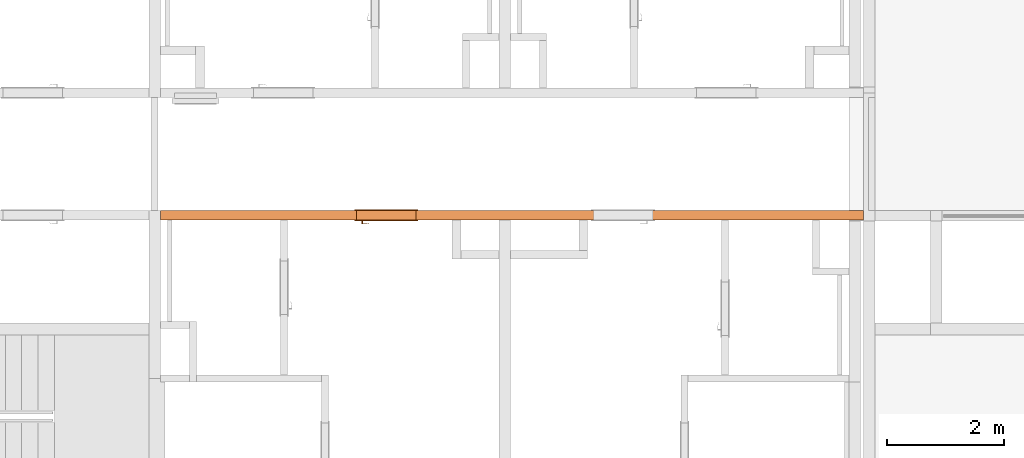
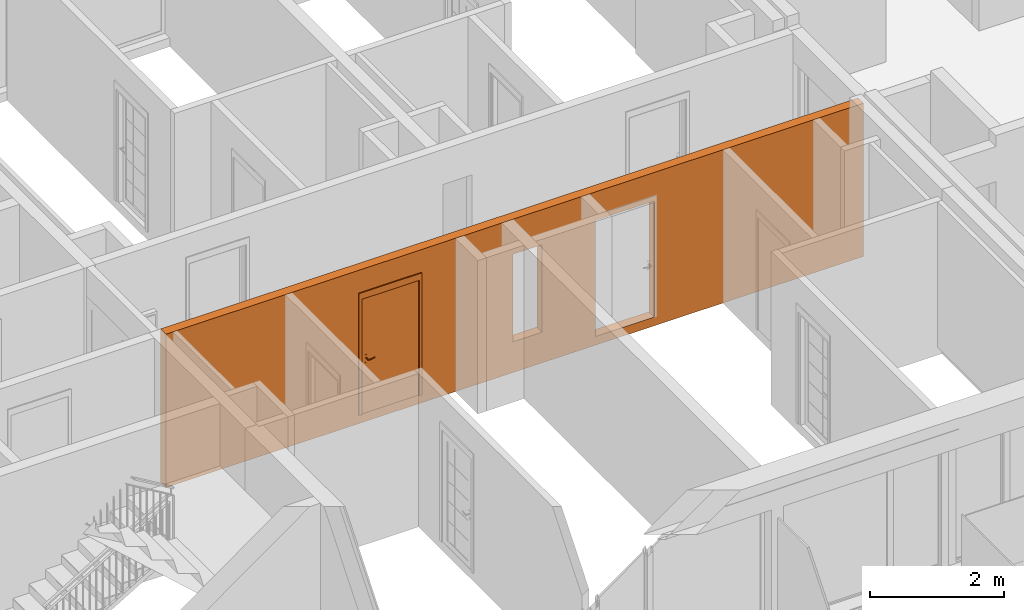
# One storey, part 22 of 64: 2 proxies, 3 openings.
"""IFC2X3 building model written with IfcOpenShell, lengths in millimetres."""

from ifc_helpers import new_model, entity, si_unit, converted_unit, derived_unit, money_unit, direction, frame, origin_with_axes, origin_2d_with_axis, place, context, subcontext, project, spatial, rectangle, extrude, open_shell, faceted_brep, surface_model, source, transform, mapped, material, type_object, element, fill, save


model = new_model("IFC2X3")

# Units and contexts
model_context = context("Model", 3, precision=0.01, world=origin_with_axes(), true_north=direction((0.34421633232, 0.938890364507)))
body_context = subcontext(model_context, "Body", "Model", "MODEL_VIEW")
ifc_project = project(units=[si_unit("LENGTHUNIT", "METRE", prefix="MILLI"), si_unit("AREAUNIT", "SQUARE_METRE"), si_unit("VOLUMEUNIT", "CUBIC_METRE"), converted_unit("PLANEANGLEUNIT", "DEGREE", entity("IfcPlaneAngleMeasure", 0.0174532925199), si_unit("PLANEANGLEUNIT", "RADIAN"), dimensions=[0, 0, 0, 0, 0, 0, 0]), si_unit("SOLIDANGLEUNIT", "STERADIAN"), money_unit("USD"), converted_unit("TIMEUNIT", "Year", entity("IfcTimeMeasure", 31556926.0), si_unit("TIMEUNIT", "SECOND"), dimensions=[0, 0, 1, 0, 0, 0, 0]), si_unit("MASSUNIT", "GRAM", prefix="KILO"), si_unit("THERMODYNAMICTEMPERATUREUNIT", "DEGREE_CELSIUS"), si_unit("LUMINOUSINTENSITYUNIT", "LUMEN"), si_unit("ENERGYUNIT", "JOULE", prefix="MEGA"), derived_unit("THERMALCONDUCTANCEUNIT", [(si_unit("POWERUNIT", "WATT"), 1), (si_unit("LENGTHUNIT", "METRE"), -1), (si_unit("THERMODYNAMICTEMPERATUREUNIT", "KELVIN"), -1)]), derived_unit("SPECIFICHEATCAPACITYUNIT", [(si_unit("ENERGYUNIT", "JOULE"), 1), (si_unit("MASSUNIT", "GRAM", prefix="KILO"), -1), (si_unit("THERMODYNAMICTEMPERATUREUNIT", "KELVIN"), -1)]), derived_unit("MASSDENSITYUNIT", [(si_unit("MASSUNIT", "GRAM", prefix="KILO"), 1), (si_unit("VOLUMEUNIT", "CUBIC_METRE"), -1)])], contexts=[model_context])

# Site, building, storey
site_placement = place(None, origin_with_axes())
site = spatial("IfcSite", under=ifc_project, at=site_placement, Name="USTRONIE MORSKIE", CompositionType="ELEMENT")
building_placement = place(site_placement, origin_with_axes())
building = spatial("IfcBuilding", under=site, at=building_placement, Name="Budynek", CompositionType="ELEMENT")
storey_placement = place(building_placement, frame((0.0, 0.0, 7000.0), z_axis=(0.0, 0.0, 1.0), x_axis=(1.0, 0.0, 0.0)))
storey = spatial("IfcBuildingStorey", under=building, at=storey_placement, Name="PIĘTRO 2", CompositionType="ELEMENT", Elevation=7000.0)

# Proxies, openings
ifc_material = material(Name="Beton konstrukcyjny B25")
building_element_proxy_type_1 = type_object("IfcBuildingElementProxyType", Name="Beton konstrukcyjny B25 160", PredefinedType="NOTDEFINED")
proxy_1_placement = place(storey_placement, frame((408567.92092, 734751.199024, -160.0), z_axis=(0.0, 0.0, 1.0), x_axis=(-1.0, 3.09952852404e-07, 0.0)))
proxy_1 = element("IfcBuildingElementProxy", 1, at=proxy_1_placement, inside=storey, type_object=building_element_proxy_type_1, material=ifc_material, Name="SW-01", context=body_context, shape_type="Brep", body=[
    faceted_brep([(12149.9999761, 80.0000000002, 0.0), (12150.0000257, -79.9999999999, 0.0), (100.000024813, -80.0, 0.0), (99.9999751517, 80.0000000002, 0.0), (12149.9999761, 80.0000000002, 2800.0), (12150.0000257, -79.9999999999, 2800.0), (100.000024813, -80.0, 2800.0), (99.9999751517, 80.0000000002, 2800.0)], [[[0, 1, 2, 3]], [[1, 0, 4, 5]], [[1, 5, 6, 2]], [[7, 3, 2, 6]], [[4, 0, 3, 7]], [[5, 4, 7, 6]]]),
])
opening_1_placement = place(proxy_1_placement, frame((8279.98054202, 0.0, 160.0), z_axis=(0.0, 0.0, 1.0), x_axis=(1.0, 0.0, 0.0)))
opening_1 = element("IfcOpeningElement", 2, at=opening_1_placement, cuts=proxy_1, Name="Dw.1", context=body_context, shape_type="SweptSolid", body=[
    extrude(rectangle(XDim=1020.0, YDim=2120.0, at=origin_2d_with_axis()), frame((0.0, -160.0, 1060.0), z_axis=(0.0, -1.0, 0.0), x_axis=(-1.0, 0.0, 0.0)), (0.0, 0.0, -1.0), 480.0),
    extrude(rectangle(XDim=1094.0, YDim=2227.0, at=origin_2d_with_axis()), frame((0.0, -80.0, 1113.5), z_axis=(0.0, -1.0, 0.0), x_axis=(-1.0, 0.0, 0.0)), (0.0, 0.0, 1.0), 160.0),
    extrude(rectangle(XDim=1094.0, YDim=2227.0, at=origin_2d_with_axis()), frame((0.0, 79.9999999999, 1113.5), z_axis=(0.0, 1.0, 0.0), x_axis=(-1.0, 0.0, 0.0)), (0.0, 0.0, 1.0), 160.0),
])
opening_2_placement = place(proxy_1_placement, frame((4220.01924278, 0.0, 160.0), z_axis=(0.0, 0.0, 1.0), x_axis=(1.0, 0.0, 0.0)))
element("IfcOpeningElement", 3, at=opening_2_placement, cuts=proxy_1, Name="Dw.1", context=body_context, shape_type="SweptSolid", body=[
    extrude(rectangle(XDim=1020.0, YDim=2120.0, at=origin_2d_with_axis()), frame((0.0, -160.0, 1060.0), z_axis=(0.0, 1.0, 0.0), x_axis=(1.0, 0.0, 0.0)), (0.0, 0.0, 1.0), 480.0),
    extrude(rectangle(XDim=1094.0, YDim=2227.0, at=origin_2d_with_axis()), frame((0.0, -80.0, 1113.5), z_axis=(0.0, 1.0, 0.0), x_axis=(1.0, 0.0, 0.0)), (0.0, 0.0, -1.0), 160.0),
    extrude(rectangle(XDim=1094.0, YDim=2227.0, at=origin_2d_with_axis()), frame((0.0, 80.0, 1113.5), z_axis=(0.0, -1.0, 0.0), x_axis=(1.0, 0.0, 0.0)), (0.0, 0.0, -1.0), 160.0),
])
opening_3_placement = place(proxy_1_placement, frame((5900.00003188, 1.13686837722e-10, 560.0), z_axis=(0.0, 0.0, 1.0), x_axis=(1.0, 0.0, 0.0)))
element("IfcOpeningElement", 4, at=opening_3_placement, cuts=proxy_1, Name="R.01", context=body_context, shape_type="SweptSolid", body=[
    extrude(rectangle(XDim=500.001816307, YDim=1600.0, at=origin_2d_with_axis()), frame((0.0, -80.0, 800.0), z_axis=(0.0, 1.0, 0.0), x_axis=(1.0, 0.0, 0.0)), (0.0, 0.0, -1.0), 160.0),
    extrude(rectangle(XDim=500.001816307, YDim=1600.0, at=origin_2d_with_axis()), frame((0.0, -80.0, 800.0), z_axis=(0.0, -1.0, 0.0), x_axis=(1.0, 0.0, 0.0)), (0.0, 0.0, -1.0), 160.0),
])
building_element_proxy_type_2 = type_object("IfcBuildingElementProxyType", Name="Drzwi 23", PredefinedType="NOTDEFINED")
shared_shape = source(origin_with_axes(), body_context, "Body", "SurfaceModel", [
    faceted_brep([(510.0, -115.0, 0.0), (510.0, -160.0, 0.0), (485.0, -160.0, 0.0), (485.0, -115.0, 0.0), (510.0, -115.0, 2120.0), (510.0, -160.0, 2120.0), (485.0, -160.0, 2095.0), (485.0, -115.0, 2095.0)], [[[0, 1, 2, 3]], [[4, 5, 1, 0]], [[1, 5, 6, 2]], [[3, 2, 6, 7]], [[0, 3, 7, 4]], [[7, 6, 5, 4]]]),
    faceted_brep([(-510.0, -115.0, 2120.0), (-510.0, -160.0, 2120.0), (-485.0, -160.0, 2095.0), (-485.0, -115.0, 2095.0), (-510.0, -115.0, 0.0), (-510.0, -160.0, 0.0), (-485.0, -160.0, 0.0), (-485.0, -115.0, 0.0)], [[[0, 1, 2, 3]], [[4, 5, 1, 0]], [[1, 5, 6, 2]], [[3, 2, 6, 7]], [[0, 3, 7, 4]], [[7, 6, 5, 4]]]),
    faceted_brep([(485.0, -115.0, 2095.0), (485.0, -160.0, 2095.0), (-485.0, -160.0, 2095.0), (-485.0, -115.0, 2095.0), (510.0, -115.0, 2120.0), (510.0, -160.0, 2120.0), (-510.0, -160.0, 2120.0), (-510.0, -115.0, 2120.0)], [[[0, 1, 2, 3]], [[4, 5, 1, 0]], [[1, 5, 6, 2]], [[3, 2, 6, 7]], [[0, 3, 7, 4]], [[7, 6, 5, 4]]]),
    faceted_brep([(547.0, -179.0, 0.0), (497.0, -179.0, 0.0), (497.0, -160.0, 0.0), (547.0, -160.0, 0.0), (547.0, -179.0, 2227.0), (497.0, -179.0, 2107.0), (497.0, -160.0, 2107.0), (547.0, -160.0, 2227.0)], [[[0, 1, 2, 3]], [[0, 4, 5, 1]], [[1, 5, 6, 2]], [[3, 2, 6, 7]], [[4, 0, 3, 7]], [[5, 4, 7, 6]]]),
    faceted_brep([(-547.0, -179.0, 2227.0), (-497.0, -179.0, 2107.0), (-497.0, -160.0, 2107.0), (-547.0, -160.0, 2227.0), (-547.0, -179.0, 0.0), (-497.0, -179.0, 0.0), (-497.0, -160.0, 0.0), (-547.0, -160.0, 0.0)], [[[0, 1, 2, 3]], [[0, 4, 5, 1]], [[1, 5, 6, 2]], [[3, 2, 6, 7]], [[4, 0, 3, 7]], [[5, 4, 7, 6]]]),
    faceted_brep([(547.0, -179.0, 2227.0), (497.0, -179.0, 2107.0), (497.0, -160.0, 2107.0), (547.0, -160.0, 2227.0), (-547.0, -179.0, 2227.0), (-497.0, -179.0, 2107.0), (-497.0, -160.0, 2107.0), (-547.0, -160.0, 2227.0)], [[[0, 1, 2, 3]], [[0, 4, 5, 1]], [[1, 5, 6, 2]], [[3, 2, 6, 7]], [[4, 0, 3, 7]], [[5, 4, 7, 6]]]),
    faceted_brep([(547.0, 19.0, 0.0), (547.0, 0.0, 0.0), (497.0, 0.0, 0.0), (497.0, 19.0, 0.0), (547.0, 19.0, 2227.0), (547.0, 0.0, 2227.0), (497.0, 0.0, 2107.0), (497.0, 19.0, 2107.0)], [[[0, 1, 2, 3]], [[4, 5, 1, 0]], [[1, 5, 6, 2]], [[3, 2, 6, 7]], [[0, 3, 7, 4]], [[7, 6, 5, 4]]]),
    faceted_brep([(-547.0, 19.0, 2227.0), (-547.0, 0.0, 2227.0), (-497.0, 0.0, 2107.0), (-497.0, 19.0, 2107.0), (-547.0, 19.0, 0.0), (-547.0, 0.0, 0.0), (-497.0, 0.0, 0.0), (-497.0, 19.0, 0.0)], [[[0, 1, 2, 3]], [[4, 5, 1, 0]], [[1, 5, 6, 2]], [[3, 2, 6, 7]], [[0, 3, 7, 4]], [[7, 6, 5, 4]]]),
    faceted_brep([(547.0, 19.0, 2227.0), (547.0, 0.0, 2227.0), (497.0, 0.0, 2107.0), (497.0, 19.0, 2107.0), (-547.0, 19.0, 2227.0), (-547.0, 0.0, 2227.0), (-497.0, 0.0, 2107.0), (-497.0, 19.0, 2107.0)], [[[0, 1, 2, 3]], [[4, 5, 1, 0]], [[1, 5, 6, 2]], [[3, 2, 6, 7]], [[0, 3, 7, 4]], [[7, 6, 5, 4]]]),
    faceted_brep([(450.0, -40.0, 0.0), (450.0, -115.0, 0.0), (450.0, -115.0, 2050.0), (450.0, -40.0, 2050.0), (462.0, -40.0, 0.0), (462.0, 0.0, 0.0), (510.0, 0.0, 0.0), (510.0, -115.0, 0.0), (510.0, -115.0, 2050.0), (462.0, -40.0, 2050.0), (510.0, 0.0, 2050.0), (462.0, 0.0, 2050.0)], [[[0, 1, 2, 3]], [[4, 5, 6, 7, 1, 0]], [[1, 7, 8, 2]], [[9, 3, 2, 8, 10, 11]], [[9, 4, 0, 3]], [[11, 5, 4, 9]], [[11, 10, 6, 5]], [[6, 10, 8, 7]]]),
    faceted_brep([(-462.0, -40.0, 2050.0), (-462.0, 0.0, 2050.0), (-510.0, 0.0, 2050.0), (-510.0, -115.0, 2050.0), (-450.0, -115.0, 2050.0), (-450.0, -40.0, 2050.0), (-462.0, -40.0, 0.0), (-462.0, 0.0, 0.0), (-510.0, 0.0, 0.0), (-510.0, -115.0, 0.0), (-450.0, -115.0, 0.0), (-450.0, -40.0, 0.0)], [[[0, 1, 2, 3, 4, 5]], [[0, 6, 7, 1]], [[7, 8, 2, 1]], [[2, 8, 9, 3]], [[3, 9, 10, 4]], [[5, 4, 10, 11]], [[5, 11, 6, 0]], [[6, 11, 10, 9, 8, 7]]]),
    faceted_brep([(462.0, 0.0, 2062.0), (-462.0, 0.0, 2062.0), (-462.0, 0.0, 2050.0), (-510.0, 0.0, 2050.0), (-510.0, 0.0, 2120.0), (510.0, 0.0, 2120.0), (510.0, 0.0, 2050.0), (462.0, 0.0, 2050.0), (462.0, -40.0, 2062.0), (-462.0, -40.0, 2062.0), (-462.0, -40.0, 2050.0), (-450.0, -40.0, 2050.0), (-450.0, -115.0, 2050.0), (-510.0, -115.0, 2050.0), (-510.0, -115.0, 2120.0), (510.0, -115.0, 2120.0), (510.0, -115.0, 2050.0), (462.0, -40.0, 2050.0), (450.0, -115.0, 2050.0), (450.0, -40.0, 2050.0)], [[[0, 1, 2, 3, 4, 5, 6, 7]], [[0, 8, 9, 1]], [[1, 9, 10, 2]], [[10, 11, 12, 13, 3, 2]], [[4, 3, 13, 14]], [[5, 4, 14, 15]], [[6, 5, 15, 16]], [[17, 7, 6, 16, 18, 19]], [[7, 17, 8, 0]], [[10, 9, 8, 17, 19, 11]], [[19, 18, 12, 11]], [[12, 18, 16, 15, 14, 13]]]),
    faceted_brep([(440.5, -40.0, 1060.0), (383.5, -40.0, 1060.0), (383.5, -43.0, 1060.0), (440.5, -43.0, 1060.0), (440.5, -40.0, 870.0), (383.5, -40.0, 870.0), (383.5, -43.0, 870.0), (440.5, -43.0, 870.0)], [[[0, 1, 2, 3]], [[0, 4, 5, 1]], [[1, 5, 6, 2]], [[3, 2, 6, 7]], [[4, 0, 3, 7]], [[5, 4, 7, 6]]]),
    faceted_brep([(412.0, -104.0, 990.0), (417.0, -104.0, 991.339745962), (417.0, -111.0, 991.339745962), (412.0, -111.0, 990.0), (387.0, -104.0, 990.0), (387.0, -104.0, 1010.0), (412.0, -104.0, 1010.0), (417.0, -104.0, 1008.66025404), (420.660254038, -104.0, 1005.0), (422.0, -104.0, 1000.0), (420.660254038, -104.0, 995.0), (420.660254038, -111.0, 995.0), (422.0, -111.0, 1000.0), (420.660254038, -111.0, 1005.0), (417.0, -111.0, 1008.66025404), (412.0, -111.0, 1010.0), (387.0, -111.0, 1010.0), (387.0, -111.0, 990.0)], [[[0, 1, 2, 3]], [[0, 4, 5, 6, 7, 8, 9, 10, 1]], [[1, 10, 11, 2]], [[3, 2, 11, 12, 13, 14, 15, 16, 17]], [[4, 0, 3, 17]], [[5, 4, 17, 16]], [[6, 5, 16, 15]], [[7, 6, 15, 14]], [[8, 7, 14, 13]], [[9, 8, 13, 12]], [[10, 9, 12, 11]]]),
    surface_model("IfcShellBasedSurfaceModel", [(387.0, -104.0, 1010.0), (373.901717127, -104.0, 1009.60730092), (373.596090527, -111.0, 1009.60730092), (387.0, -104.0, 990.0), (373.901717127, -104.0, 990.392699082), (346.890283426, -108.663544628, 1008.82190275), (387.0, -111.0, 1010.0), (387.0, -111.0, 990.0), (347.804837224, -101.716818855, 991.178097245), (347.804837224, -101.716818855, 1008.82190275), (346.890283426, -108.663544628, 991.178097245), (373.596090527, -111.0, 990.392699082), (322.006256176, -97.1678329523, 991.963495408), (322.006256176, -97.1678329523, 1008.03650459), (320.489735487, -104.008415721, 1008.03650459), (320.489735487, -104.008415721, 991.963495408), (296.702316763, -90.3876628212, 992.748893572), (296.702316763, -90.3876628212, 1007.25110643), (294.59537082, -97.0700416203, 1007.25110643), (294.59537082, -97.0700416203, 992.748893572), (288.829442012, -87.5221707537, 993.0), (288.829442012, -87.5221707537, 1007.0), (286.538795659, -94.1376880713, 1007.0), (286.538795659, -94.1376880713, 993.0)], [open_shell([[[0, 1, 2]], [[0, 3, 4, 1]], [[1, 5, 2]], [[0, 2, 6]], [[4, 3, 7]], [[1, 4, 8, 9]], [[1, 9, 5]], [[2, 5, 10, 11]], [[6, 2, 11, 7]], [[4, 7, 11]], [[8, 4, 11]], [[9, 8, 12, 13]], [[9, 14, 5]], [[5, 14, 15, 10]], [[8, 11, 10]], [[12, 8, 10]], [[13, 12, 16, 17]], [[9, 13, 14]], [[14, 18, 19, 15]], [[12, 10, 15]], [[16, 12, 15]], [[17, 16, 20, 21]], [[13, 17, 18]], [[13, 18, 14]], [[18, 22, 23, 19]], [[16, 15, 19]], [[20, 16, 19]], [[21, 20, 23, 22]], [[17, 21, 22]], [[17, 22, 18]], [[20, 19, 23]]])]),
    faceted_brep([(401.607695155, -53.0, 994.0), (400.0, -53.0, 1000.0), (399.0, -43.0, 1000.0), (400.741669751, -43.0, 993.5), (406.0, -53.0, 989.607695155), (412.0, -53.0, 988.0), (418.0, -53.0, 989.607695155), (422.392304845, -53.0, 994.0), (424.0, -53.0, 1000.0), (422.392304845, -53.0, 1006.0), (418.0, -53.0, 1010.39230485), (412.0, -53.0, 1012.0), (406.0, -53.0, 1010.39230485), (401.607695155, -53.0, 1006.0), (400.741669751, -43.0, 1006.5), (405.5, -43.0, 1011.25833025), (412.0, -43.0, 1013.0), (418.5, -43.0, 1011.25833025), (423.258330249, -43.0, 1006.5), (425.0, -43.0, 1000.0), (423.258330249, -43.0, 993.5), (418.5, -43.0, 988.741669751), (412.0, -43.0, 987.0), (405.5, -43.0, 988.741669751)], [[[0, 1, 2, 3]], [[1, 0, 4, 5, 6, 7, 8, 9, 10, 11, 12, 13]], [[1, 13, 14, 2]], [[2, 14, 15, 16, 17, 18, 19, 20, 21, 22, 23, 3]], [[4, 0, 3, 23]], [[5, 4, 23, 22]], [[6, 5, 22, 21]], [[7, 6, 21, 20]], [[8, 7, 20, 19]], [[9, 8, 19, 18]], [[10, 9, 18, 17]], [[11, 10, 17, 16]], [[12, 11, 16, 15]], [[13, 12, 15, 14]]]),
    faceted_brep([(394.679491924, -47.0, 895.0), (392.0, -47.0, 905.0), (390.0, -43.0, 905.0), (392.947441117, -43.0, 894.0), (402.0, -47.0, 887.679491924), (412.0, -47.0, 885.0), (422.0, -47.0, 887.679491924), (429.320508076, -47.0, 895.0), (432.0, -47.0, 905.0), (429.320508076, -47.0, 915.0), (422.0, -47.0, 922.320508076), (412.0, -47.0, 925.0), (402.0, -47.0, 922.320508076), (394.679491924, -47.0, 915.0), (392.947441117, -43.0, 916.0), (401.0, -43.0, 924.052558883), (412.0, -43.0, 927.0), (423.0, -43.0, 924.052558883), (431.052558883, -43.0, 916.0), (434.0, -43.0, 905.0), (431.052558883, -43.0, 894.0), (423.0, -43.0, 885.947441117), (412.0, -43.0, 883.0), (401.0, -43.0, 885.947441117)], [[[0, 1, 2, 3]], [[1, 0, 4, 5, 6, 7, 8, 9, 10, 11, 12, 13]], [[1, 13, 14, 2]], [[2, 14, 15, 16, 17, 18, 19, 20, 21, 22, 23, 3]], [[4, 0, 3, 23]], [[5, 4, 23, 22]], [[6, 5, 22, 21]], [[7, 6, 21, 20]], [[8, 7, 20, 19]], [[9, 8, 19, 18]], [[10, 9, 18, 17]], [[11, 10, 17, 16]], [[12, 11, 16, 15]], [[13, 12, 15, 14]]]),
    faceted_brep([(407.050252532, -49.0, 909.050252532), (405.0, -49.0, 914.0), (404.0, -47.0, 914.0), (406.343145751, -47.0, 908.343145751), (412.0, -49.0, 907.0), (416.949747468, -49.0, 909.050252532), (419.0, -49.0, 914.0), (416.949747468, -49.0, 918.949747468), (412.0, -49.0, 921.0), (407.050252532, -49.0, 918.949747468), (406.343145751, -47.0, 919.656854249), (412.0, -47.0, 922.0), (417.656854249, -47.0, 919.656854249), (420.0, -47.0, 914.0), (417.656854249, -47.0, 908.343145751), (412.0, -47.0, 906.0)], [[[0, 1, 2, 3]], [[1, 0, 4, 5, 6, 7, 8, 9]], [[1, 9, 10, 2]], [[2, 10, 11, 12, 13, 14, 15, 3]], [[4, 0, 3, 15]], [[5, 4, 15, 14]], [[6, 5, 14, 13]], [[7, 6, 13, 12]], [[8, 7, 12, 11]], [[9, 8, 11, 10]]]),
    faceted_brep([(412.0, -53.0, 1010.0), (407.0, -53.0, 1008.66025404), (407.0, -104.0, 1008.66025404), (412.0, -104.0, 1010.0), (417.0, -53.0, 1008.66025404), (420.660254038, -53.0, 1005.0), (422.0, -53.0, 1000.0), (420.660254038, -53.0, 995.0), (417.0, -53.0, 991.339745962), (412.0, -53.0, 990.0), (407.0, -53.0, 991.339745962), (403.339745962, -53.0, 995.0), (402.0, -53.0, 1000.0), (403.339745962, -53.0, 1005.0), (403.339745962, -104.0, 1005.0), (402.0, -104.0, 1000.0), (403.339745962, -104.0, 995.0), (407.0, -104.0, 991.339745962), (412.0, -104.0, 990.0), (417.0, -104.0, 991.339745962), (420.660254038, -104.0, 995.0), (422.0, -104.0, 1000.0), (420.660254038, -104.0, 1005.0), (417.0, -104.0, 1008.66025404)], [[[0, 1, 2, 3]], [[0, 4, 5, 6, 7, 8, 9, 10, 11, 12, 13, 1]], [[1, 13, 14, 2]], [[3, 2, 14, 15, 16, 17, 18, 19, 20, 21, 22, 23]], [[4, 0, 3, 23]], [[5, 4, 23, 22]], [[6, 5, 22, 21]], [[7, 6, 21, 20]], [[8, 7, 20, 19]], [[9, 8, 19, 18]], [[10, 9, 18, 17]], [[11, 10, 17, 16]], [[12, 11, 16, 15]], [[13, 12, 15, 14]]]),
    faceted_brep([(440.5, 0.0, 1060.0), (440.5, 3.0, 1060.0), (383.5, 3.0, 1060.0), (383.5, 0.0, 1060.0), (440.5, 0.0, 870.0), (440.5, 3.0, 870.0), (383.5, 3.0, 870.0), (383.5, 0.0, 870.0)], [[[0, 1, 2, 3]], [[4, 5, 1, 0]], [[1, 5, 6, 2]], [[3, 2, 6, 7]], [[0, 3, 7, 4]], [[7, 6, 5, 4]]]),
    faceted_brep([(412.0, 64.0, 990.0), (412.0, 71.0, 990.0), (417.0, 71.0, 991.339745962), (417.0, 64.0, 991.339745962), (387.0, 64.0, 990.0), (387.0, 71.0, 990.0), (387.0, 71.0, 1010.0), (412.0, 71.0, 1010.0), (417.0, 71.0, 1008.66025404), (420.660254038, 71.0, 1005.0), (422.0, 71.0, 1000.0), (420.660254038, 71.0, 995.0), (420.660254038, 64.0, 995.0), (422.0, 64.0, 1000.0), (420.660254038, 64.0, 1005.0), (417.0, 64.0, 1008.66025404), (412.0, 64.0, 1010.0), (387.0, 64.0, 1010.0)], [[[0, 1, 2, 3]], [[4, 5, 1, 0]], [[1, 5, 6, 7, 8, 9, 10, 11, 2]], [[3, 2, 11, 12]], [[0, 3, 12, 13, 14, 15, 16, 17, 4]], [[17, 6, 5, 4]], [[16, 7, 6, 17]], [[15, 8, 7, 16]], [[14, 9, 8, 15]], [[13, 10, 9, 14]], [[12, 11, 10, 13]]]),
    surface_model("IfcShellBasedSurfaceModel", [(387.0, 64.0, 1010.0), (373.596090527, 71.0, 1009.60730092), (373.901717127, 64.0, 1009.60730092), (387.0, 71.0, 1010.0), (346.890283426, 68.6635446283, 1008.82190275), (373.901717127, 64.0, 990.392699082), (387.0, 64.0, 990.0), (387.0, 71.0, 990.0), (373.596090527, 71.0, 990.392699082), (346.890283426, 68.6635446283, 991.178097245), (347.804837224, 61.716818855, 1008.82190275), (347.804837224, 61.716818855, 991.178097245), (320.489735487, 64.0084157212, 991.963495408), (320.489735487, 64.0084157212, 1008.03650459), (322.006256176, 57.1678329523, 1008.03650459), (322.006256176, 57.1678329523, 991.963495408), (294.59537082, 57.0700416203, 992.748893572), (294.59537082, 57.0700416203, 1007.25110643), (296.702316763, 50.3876628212, 1007.25110643), (296.702316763, 50.3876628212, 992.748893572), (286.538795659, 54.1376880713, 993.0), (286.538795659, 54.1376880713, 1007.0), (288.829442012, 47.5221707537, 1007.0), (288.829442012, 47.5221707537, 993.0)], [open_shell([[[0, 1, 2]], [[0, 3, 1]], [[2, 1, 4]], [[0, 2, 5, 6]], [[3, 7, 8, 1]], [[1, 8, 9, 4]], [[2, 4, 10]], [[2, 10, 11, 5]], [[5, 7, 6]], [[5, 8, 7]], [[11, 9, 8]], [[4, 9, 12, 13]], [[10, 4, 13]], [[10, 14, 15, 11]], [[11, 8, 5]], [[15, 9, 11]], [[15, 12, 9]], [[13, 12, 16, 17]], [[10, 13, 14]], [[14, 18, 19, 15]], [[19, 12, 15]], [[19, 16, 12]], [[17, 16, 20, 21]], [[14, 13, 17]], [[14, 17, 18]], [[18, 22, 23, 19]], [[23, 16, 19]], [[23, 20, 16]], [[22, 21, 20, 23]], [[18, 17, 21]], [[18, 21, 22]]])]),
    faceted_brep([(401.607695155, 13.0, 994.0), (400.741669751, 3.0, 993.5), (399.0, 3.0, 1000.0), (400.0, 13.0, 1000.0), (406.0, 13.0, 989.607695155), (405.5, 3.0, 988.741669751), (412.0, 3.0, 987.0), (418.5, 3.0, 988.741669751), (423.258330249, 3.0, 993.5), (425.0, 3.0, 1000.0), (423.258330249, 3.0, 1006.5), (418.5, 3.0, 1011.25833025), (412.0, 3.0, 1013.0), (405.5, 3.0, 1011.25833025), (400.741669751, 3.0, 1006.5), (401.607695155, 13.0, 1006.0), (406.0, 13.0, 1010.39230485), (412.0, 13.0, 1012.0), (418.0, 13.0, 1010.39230485), (422.392304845, 13.0, 1006.0), (424.0, 13.0, 1000.0), (422.392304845, 13.0, 994.0), (418.0, 13.0, 989.607695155), (412.0, 13.0, 988.0)], [[[0, 1, 2, 3]], [[4, 5, 1, 0]], [[2, 1, 5, 6, 7, 8, 9, 10, 11, 12, 13, 14]], [[3, 2, 14, 15]], [[3, 15, 16, 17, 18, 19, 20, 21, 22, 23, 4, 0]], [[23, 6, 5, 4]], [[22, 7, 6, 23]], [[21, 8, 7, 22]], [[20, 9, 8, 21]], [[19, 10, 9, 20]], [[18, 11, 10, 19]], [[17, 12, 11, 18]], [[16, 13, 12, 17]], [[15, 14, 13, 16]]]),
    faceted_brep([(394.679491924, 7.0, 895.0), (392.947441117, 3.0, 894.0), (390.0, 3.0, 905.0), (392.0, 7.0, 905.0), (402.0, 7.0, 887.679491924), (401.0, 3.0, 885.947441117), (412.0, 3.0, 883.0), (423.0, 3.0, 885.947441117), (431.052558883, 3.0, 894.0), (434.0, 3.0, 905.0), (431.052558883, 3.0, 916.0), (423.0, 3.0, 924.052558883), (412.0, 3.0, 927.0), (401.0, 3.0, 924.052558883), (392.947441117, 3.0, 916.0), (394.679491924, 7.0, 915.0), (402.0, 7.0, 922.320508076), (412.0, 7.0, 925.0), (422.0, 7.0, 922.320508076), (429.320508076, 7.0, 915.0), (432.0, 7.0, 905.0), (429.320508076, 7.0, 895.0), (422.0, 7.0, 887.679491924), (412.0, 7.0, 885.0)], [[[0, 1, 2, 3]], [[4, 5, 1, 0]], [[2, 1, 5, 6, 7, 8, 9, 10, 11, 12, 13, 14]], [[3, 2, 14, 15]], [[3, 15, 16, 17, 18, 19, 20, 21, 22, 23, 4, 0]], [[23, 6, 5, 4]], [[22, 7, 6, 23]], [[21, 8, 7, 22]], [[20, 9, 8, 21]], [[19, 10, 9, 20]], [[18, 11, 10, 19]], [[17, 12, 11, 18]], [[16, 13, 12, 17]], [[15, 14, 13, 16]]]),
    faceted_brep([(407.050252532, 9.0, 909.050252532), (406.343145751, 7.0, 908.343145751), (404.0, 7.0, 914.0), (405.0, 9.0, 914.0), (412.0, 9.0, 907.0), (412.0, 7.0, 906.0), (417.656854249, 7.0, 908.343145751), (420.0, 7.0, 914.0), (417.656854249, 7.0, 919.656854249), (412.0, 7.0, 922.0), (406.343145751, 7.0, 919.656854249), (407.050252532, 9.0, 918.949747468), (412.0, 9.0, 921.0), (416.949747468, 9.0, 918.949747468), (419.0, 9.0, 914.0), (416.949747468, 9.0, 909.050252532)], [[[0, 1, 2, 3]], [[4, 5, 1, 0]], [[2, 1, 5, 6, 7, 8, 9, 10]], [[3, 2, 10, 11]], [[3, 11, 12, 13, 14, 15, 4, 0]], [[15, 6, 5, 4]], [[14, 7, 6, 15]], [[13, 8, 7, 14]], [[12, 9, 8, 13]], [[11, 10, 9, 12]]]),
    faceted_brep([(412.0, 13.0, 1010.0), (412.0, 64.0, 1010.0), (407.0, 64.0, 1008.66025404), (407.0, 13.0, 1008.66025404), (417.0, 13.0, 1008.66025404), (417.0, 64.0, 1008.66025404), (420.660254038, 64.0, 1005.0), (422.0, 64.0, 1000.0), (420.660254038, 64.0, 995.0), (417.0, 64.0, 991.339745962), (412.0, 64.0, 990.0), (407.0, 64.0, 991.339745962), (403.339745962, 64.0, 995.0), (402.0, 64.0, 1000.0), (403.339745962, 64.0, 1005.0), (403.339745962, 13.0, 1005.0), (402.0, 13.0, 1000.0), (403.339745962, 13.0, 995.0), (407.0, 13.0, 991.339745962), (412.0, 13.0, 990.0), (417.0, 13.0, 991.339745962), (420.660254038, 13.0, 995.0), (422.0, 13.0, 1000.0), (420.660254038, 13.0, 1005.0)], [[[0, 1, 2, 3]], [[4, 5, 1, 0]], [[1, 5, 6, 7, 8, 9, 10, 11, 12, 13, 14, 2]], [[3, 2, 14, 15]], [[0, 3, 15, 16, 17, 18, 19, 20, 21, 22, 23, 4]], [[23, 6, 5, 4]], [[22, 7, 6, 23]], [[21, 8, 7, 22]], [[20, 9, 8, 21]], [[19, 10, 9, 20]], [[18, 11, 10, 19]], [[17, 12, 11, 18]], [[16, 13, 12, 17]], [[15, 14, 13, 16]]]),
    faceted_brep([(-462.0, 0.0, 0.0), (462.0, 0.0, 0.0), (462.0, -40.0, 0.0), (-462.0, -40.0, 0.0), (-462.0, 0.0, 2062.0), (462.0, 0.0, 2062.0), (462.0, -40.0, 2062.0), (-462.0, -40.0, 2062.0)], [[[0, 1, 2, 3]], [[0, 4, 5, 1]], [[1, 5, 6, 2]], [[3, 2, 6, 7]], [[4, 0, 3, 7]], [[5, 4, 7, 6]]]),
])
proxy_2_placement = place(opening_1_placement, frame((-450.0, 0.0, 0.0), z_axis=(0.0, 0.0, 1.0), x_axis=(1.0, 0.0, 0.0)))
proxy_2 = element("IfcBuildingElementProxy", 5, at=proxy_2_placement, inside=storey, type_object=building_element_proxy_type_2, Name="Dw.1", context=body_context, shape_type="MappedRepresentation", body=[
    mapped(shared_shape, transform((450.0, 79.9999999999, 0.0))),
])
fill(opening_1, proxy_2)

save(model, "model.ifc")
